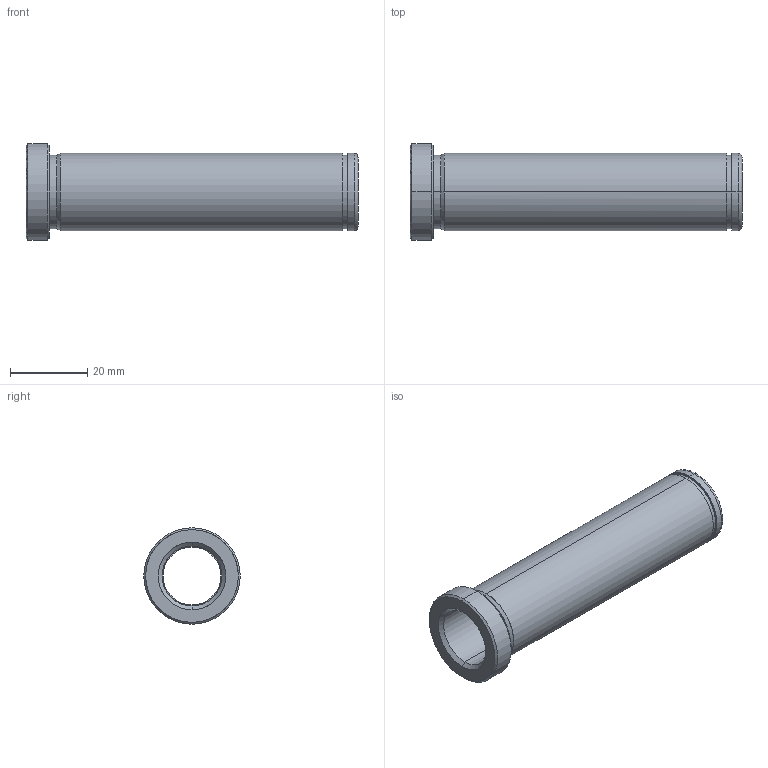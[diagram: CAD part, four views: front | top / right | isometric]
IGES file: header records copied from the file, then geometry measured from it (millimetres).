
Start section: START RECORD GO HERE.
Global section: file name: 553-15X86.igs; native system: DASSAULT SYSTEMES CATIA V5 R20 - www.3ds.com; preprocessor: CATIA Version 5 Release 20 ; author: Utente; organization: NB04-ASUS; date: 20210521.203359; units: millimetre
Bounding box: 86 x 25 x 25 mm (x, y, z)
Surface area: 10199.3 mm2 (no closed solid volume)
Topology: 0 solids, 0 shells, 31 faces, 196 edges, 196 vertices
Faces by surface type: revolution 26, plane 5
